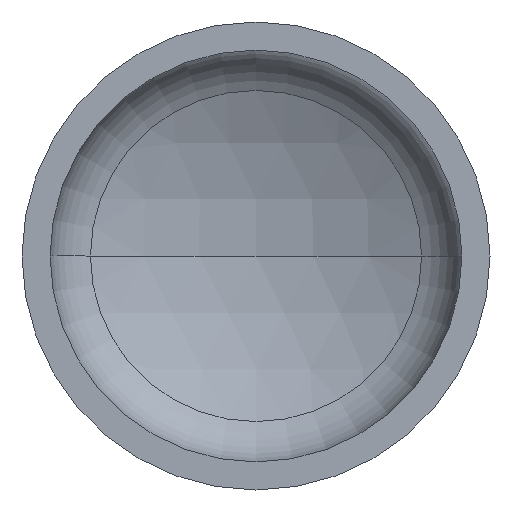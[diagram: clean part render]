
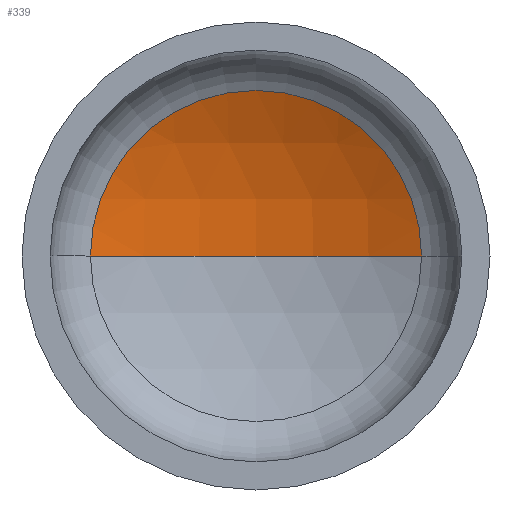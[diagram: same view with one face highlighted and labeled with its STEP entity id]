
A CAD part, front view. The second image highlights one B-rep face of the part: STEP entity #339.
In plain terms, the highlighted spherical face has radius 880 mm.
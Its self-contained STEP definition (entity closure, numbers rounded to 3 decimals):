
#6 = CIRCLE ( 'NONE', #320, 880. ) ;
#7 = ORIENTED_EDGE ( 'NONE', *, *, #345, .T. ) ;
#13 = AXIS2_PLACEMENT_3D ( 'NONE', #237, #240, #369 ) ;
#14 = AXIS2_PLACEMENT_3D ( 'NONE', #150, #401, #260 ) ;
#17 = ORIENTED_EDGE ( 'NONE', *, *, #344, .T. ) ;
#18 = AXIS2_PLACEMENT_3D ( 'NONE', #174, #26, #383 ) ;
#20 = EDGE_LOOP ( 'NONE', ( #48, #7, #17 ) ) ;
#26 = DIRECTION ( 'NONE',  ( 0., 0., -1. ) ) ;
#48 = ORIENTED_EDGE ( 'NONE', *, *, #388, .F. ) ;
#79 = VERTEX_POINT ( 'NONE', #284 ) ;
#94 = CIRCLE ( 'NONE', #14, 389.183 ) ;
#111 = VERTEX_POINT ( 'NONE', #280 ) ;
#123 = VERTEX_POINT ( 'NONE', #276 ) ;
#150 = CARTESIAN_POINT ( 'NONE',  ( 0., 272.471, 0. ) ) ;
#174 = CARTESIAN_POINT ( 'NONE',  ( 0., -516.792, 0. ) ) ;
#201 = SPHERICAL_SURFACE ( 'NONE', #18, 880. ) ;
#237 = CARTESIAN_POINT ( 'NONE',  ( 0., -516.792, 0. ) ) ;
#240 = DIRECTION ( 'NONE',  ( 0., 0., -1. ) ) ;
#243 = CARTESIAN_POINT ( 'NONE',  ( 0., -516.792, 0. ) ) ;
#260 = DIRECTION ( 'NONE',  ( 1., 0., 0. ) ) ;
#263 = DIRECTION ( 'NONE',  ( 1., 0., 0. ) ) ;
#276 = CARTESIAN_POINT ( 'NONE',  ( 389.183, 272.471, 0. ) ) ;
#280 = CARTESIAN_POINT ( 'NONE',  ( 0., 363.208, 0. ) ) ;
#284 = CARTESIAN_POINT ( 'NONE',  ( -389.183, 272.471, 0. ) ) ;
#320 = AXIS2_PLACEMENT_3D ( 'NONE', #243, #403, #263 ) ;
#323 = CIRCLE ( 'NONE', #13, 880. ) ;
#329 = FACE_OUTER_BOUND ( 'NONE', #20, .T. ) ;
#339 = ADVANCED_FACE ( 'NONE', ( #329 ), #201, .F. ) ;
#344 = EDGE_CURVE ( 'NONE', #123, #79, #94, .T. ) ;
#345 = EDGE_CURVE ( 'NONE', #111, #123, #323, .T. ) ;
#369 = DIRECTION ( 'NONE',  ( -1., 0., 0. ) ) ;
#383 = DIRECTION ( 'NONE',  ( -1., 0., 0. ) ) ;
#388 = EDGE_CURVE ( 'NONE', #111, #79, #6, .T. ) ;
#401 = DIRECTION ( 'NONE',  ( 0., -1., 0. ) ) ;
#403 = DIRECTION ( 'NONE',  ( 0., 0., 1. ) ) ;
